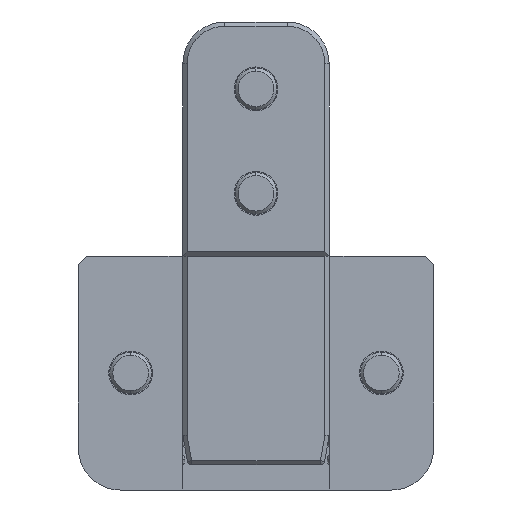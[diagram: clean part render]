
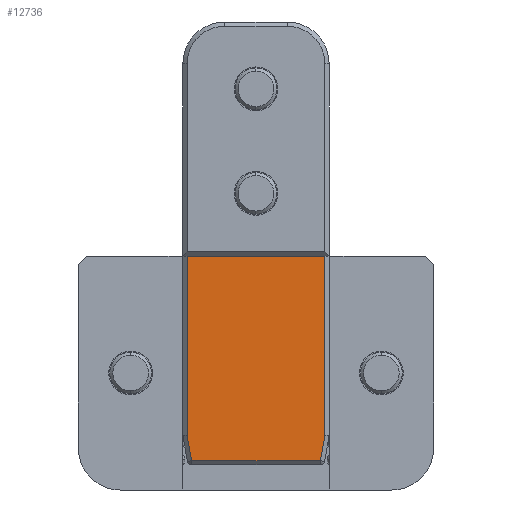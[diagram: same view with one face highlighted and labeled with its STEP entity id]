
A CAD part, left-side view. The second image highlights one B-rep face of the part: STEP entity #12736.
In plain terms, the highlighted planar face has unit normal (-1, 0, 0).
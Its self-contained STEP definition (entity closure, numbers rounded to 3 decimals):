
#80 = VERTEX_POINT ( 'NONE', #10753 ) ;
#228 = DIRECTION ( 'NONE',  ( 0., -0.174, 0.985 ) ) ;
#1064 = CARTESIAN_POINT ( 'NONE',  ( -35., 16.5, -42.913 ) ) ;
#1088 = LINE ( 'NONE', #13453, #6009 ) ;
#1165 = CARTESIAN_POINT ( 'NONE',  ( -35., -15.427, -49. ) ) ;
#1239 = FACE_OUTER_BOUND ( 'NONE', #10322, .T. ) ;
#1443 = LINE ( 'NONE', #4011, #13465 ) ;
#1524 = ORIENTED_EDGE ( 'NONE', *, *, #1772, .T. ) ;
#1609 = VERTEX_POINT ( 'NONE', #3638 ) ;
#1772 = EDGE_CURVE ( 'NONE', #1609, #10085, #7470, .T. ) ;
#2441 = VERTEX_POINT ( 'NONE', #6803 ) ;
#3252 = ORIENTED_EDGE ( 'NONE', *, *, #6263, .T. ) ;
#3638 = CARTESIAN_POINT ( 'NONE',  ( -35., 15.427, -49. ) ) ;
#3931 = VECTOR ( 'NONE', #12760, 1000. ) ;
#4011 = CARTESIAN_POINT ( 'NONE',  ( -35., 16.5, -21.5 ) ) ;
#4373 = AXIS2_PLACEMENT_3D ( 'NONE', #12443, #13635, #6692 ) ;
#5032 = LINE ( 'NONE', #1064, #3931 ) ;
#5507 = CARTESIAN_POINT ( 'NONE',  ( -35., -17.5, -49. ) ) ;
#6009 = VECTOR ( 'NONE', #13507, 1000. ) ;
#6263 = EDGE_CURVE ( 'NONE', #10085, #80, #7145, .T. ) ;
#6379 = ORIENTED_EDGE ( 'NONE', *, *, #11521, .F. ) ;
#6692 = DIRECTION ( 'NONE',  ( 0., -1., 0. ) ) ;
#6778 = VECTOR ( 'NONE', #228, 1000. ) ;
#6803 = CARTESIAN_POINT ( 'NONE',  ( -35., -16.5, 0. ) ) ;
#7123 = DIRECTION ( 'NONE',  ( 0., 1., 0. ) ) ;
#7145 = LINE ( 'NONE', #1165, #6778 ) ;
#7470 = LINE ( 'NONE', #5507, #8191 ) ;
#7473 = DIRECTION ( 'NONE',  ( 0., 0., 1. ) ) ;
#8191 = VECTOR ( 'NONE', #12219, 1000. ) ;
#8471 = VERTEX_POINT ( 'NONE', #14441 ) ;
#8842 = VECTOR ( 'NONE', #7123, 1000. ) ;
#8855 = EDGE_CURVE ( 'NONE', #2441, #13554, #13037, .T. ) ;
#9003 = CARTESIAN_POINT ( 'NONE',  ( -35., 16.5, 0. ) ) ;
#9160 = EDGE_CURVE ( 'NONE', #8471, #1609, #5032, .T. ) ;
#9517 = ORIENTED_EDGE ( 'NONE', *, *, #9160, .T. ) ;
#9690 = CARTESIAN_POINT ( 'NONE',  ( -35., -15.427, -49. ) ) ;
#10085 = VERTEX_POINT ( 'NONE', #9690 ) ;
#10322 = EDGE_LOOP ( 'NONE', ( #11622, #11266, #6379, #9517, #1524, #3252 ) ) ;
#10513 = CARTESIAN_POINT ( 'NONE',  ( -35., -17.5, 0. ) ) ;
#10753 = CARTESIAN_POINT ( 'NONE',  ( -35., -16.5, -42.913 ) ) ;
#11226 = EDGE_CURVE ( 'NONE', #80, #2441, #1088, .T. ) ;
#11266 = ORIENTED_EDGE ( 'NONE', *, *, #8855, .T. ) ;
#11521 = EDGE_CURVE ( 'NONE', #8471, #13554, #1443, .T. ) ;
#11622 = ORIENTED_EDGE ( 'NONE', *, *, #11226, .T. ) ;
#12219 = DIRECTION ( 'NONE',  ( 0., -1., 0. ) ) ;
#12403 = PLANE ( 'NONE',  #4373 ) ;
#12443 = CARTESIAN_POINT ( 'NONE',  ( -35., -17.5, -50. ) ) ;
#12736 = ADVANCED_FACE ( 'NONE', ( #1239 ), #12403, .T. ) ;
#12760 = DIRECTION ( 'NONE',  ( 0., -0.174, -0.985 ) ) ;
#13037 = LINE ( 'NONE', #10513, #8842 ) ;
#13453 = CARTESIAN_POINT ( 'NONE',  ( -35., -16.5, -50. ) ) ;
#13465 = VECTOR ( 'NONE', #7473, 1000. ) ;
#13507 = DIRECTION ( 'NONE',  ( 0., 0., 1. ) ) ;
#13554 = VERTEX_POINT ( 'NONE', #9003 ) ;
#13635 = DIRECTION ( 'NONE',  ( -1., 0., 0. ) ) ;
#14441 = CARTESIAN_POINT ( 'NONE',  ( -35., 16.5, -42.913 ) ) ;
